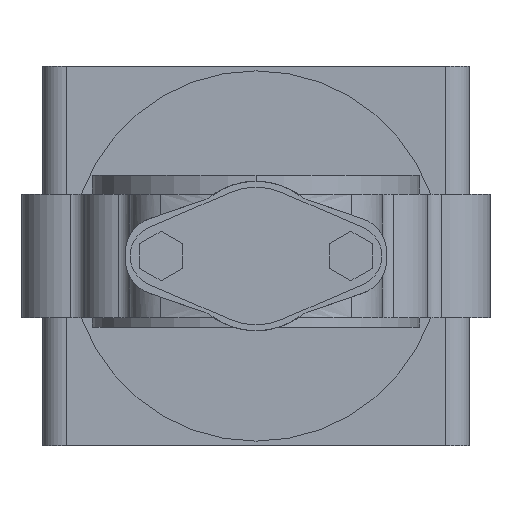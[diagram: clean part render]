
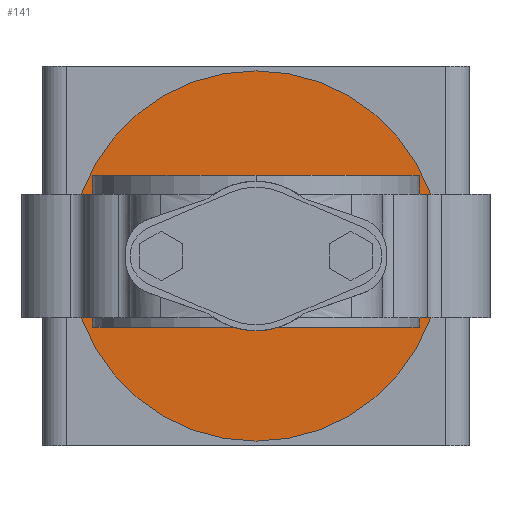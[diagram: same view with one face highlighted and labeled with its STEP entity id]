
A CAD part, front view. The second image highlights one B-rep face of the part: STEP entity #141.
In plain terms, the highlighted planar face has unit normal (0, -1, 0).
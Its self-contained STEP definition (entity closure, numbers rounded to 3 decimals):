
#141 = ADVANCED_FACE( '', ( #461, #462 ), #463, .T. );
#461 = FACE_OUTER_BOUND( '', #986, .T. );
#462 = FACE_BOUND( '', #987, .T. );
#463 = PLANE( '', #988 );
#986 = EDGE_LOOP( '', ( #1893, #1894 ) );
#987 = EDGE_LOOP( '', ( #1895, #1896, #1897, #1898 ) );
#988 = AXIS2_PLACEMENT_3D( '', #1899, #1900, #1901 );
#1893 = ORIENTED_EDGE( '', *, *, #3466, .F. );
#1894 = ORIENTED_EDGE( '', *, *, #3594, .F. );
#1895 = ORIENTED_EDGE( '', *, *, #3595, .T. );
#1896 = ORIENTED_EDGE( '', *, *, #3596, .T. );
#1897 = ORIENTED_EDGE( '', *, *, #3597, .T. );
#1898 = ORIENTED_EDGE( '', *, *, #3598, .T. );
#1899 = CARTESIAN_POINT( '', ( 44.5, 175., 0. ) );
#1900 = DIRECTION( '', ( 0., -1., 0. ) );
#1901 = DIRECTION( '', ( -1., 0., 0. ) );
#3466 = EDGE_CURVE( '', #4205, #4208, #4209, .T. );
#3594 = EDGE_CURVE( '', #4208, #4205, #4420, .T. );
#3595 = EDGE_CURVE( '', #4421, #4422, #4423, .T. );
#3596 = EDGE_CURVE( '', #4422, #4424, #4425, .T. );
#3597 = EDGE_CURVE( '', #4424, #4426, #4427, .T. );
#3598 = EDGE_CURVE( '', #4426, #4421, #4428, .T. );
#4205 = VERTEX_POINT( '', #5531 );
#4208 = VERTEX_POINT( '', #5535 );
#4209 = CIRCLE( '', #5536, 78. );
#4420 = CIRCLE( '', #5964, 78. );
#4421 = VERTEX_POINT( '', #5965 );
#4422 = VERTEX_POINT( '', #5966 );
#4423 = LINE( '', #5967, #5968 );
#4424 = VERTEX_POINT( '', #5969 );
#4425 = LINE( '', #5970, #5971 );
#4426 = VERTEX_POINT( '', #5972 );
#4427 = LINE( '', #5973, #5974 );
#4428 = LINE( '', #5975, #5976 );
#5531 = CARTESIAN_POINT( '', ( 78., 175., 0. ) );
#5535 = CARTESIAN_POINT( '', ( -78., 175., 0. ) );
#5536 = AXIS2_PLACEMENT_3D( '', #7246, #7247, #7248 );
#5964 = AXIS2_PLACEMENT_3D( '', #7481, #7482, #7483 );
#5965 = CARTESIAN_POINT( '', ( 41.5, 175., 26. ) );
#5966 = CARTESIAN_POINT( '', ( 41.5, 175., -26. ) );
#5967 = CARTESIAN_POINT( '', ( 41.5, 175., 26. ) );
#5968 = VECTOR( '', #7484, 1. );
#5969 = CARTESIAN_POINT( '', ( -41.5, 175., -26. ) );
#5970 = CARTESIAN_POINT( '', ( 41.5, 175., -26. ) );
#5971 = VECTOR( '', #7485, 1. );
#5972 = CARTESIAN_POINT( '', ( -41.5, 175., 26. ) );
#5973 = CARTESIAN_POINT( '', ( -41.5, 175., -26. ) );
#5974 = VECTOR( '', #7486, 1. );
#5975 = CARTESIAN_POINT( '', ( -41.5, 175., 26. ) );
#5976 = VECTOR( '', #7487, 1. );
#7246 = CARTESIAN_POINT( '', ( 0., 175., 0. ) );
#7247 = DIRECTION( '', ( 0., 1., 0. ) );
#7248 = DIRECTION( '', ( 1., 0., 0. ) );
#7481 = CARTESIAN_POINT( '', ( 0., 175., 0. ) );
#7482 = DIRECTION( '', ( 0., 1., 0. ) );
#7483 = DIRECTION( '', ( 1., 0., 0. ) );
#7484 = DIRECTION( '', ( 0., 0., -1. ) );
#7485 = DIRECTION( '', ( -1., 0., 0. ) );
#7486 = DIRECTION( '', ( 0., 0., 1. ) );
#7487 = DIRECTION( '', ( 1., 0., 0. ) );
